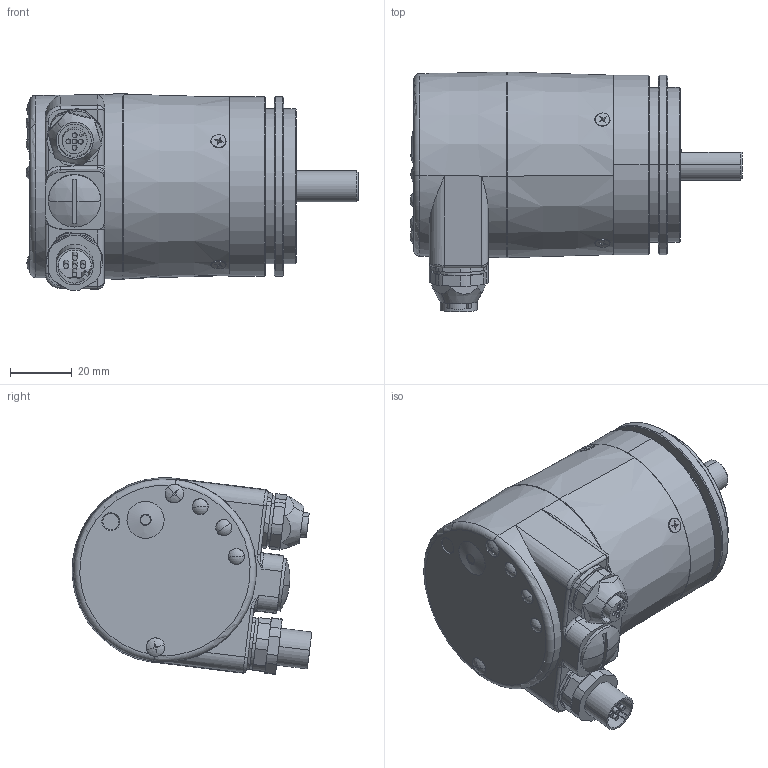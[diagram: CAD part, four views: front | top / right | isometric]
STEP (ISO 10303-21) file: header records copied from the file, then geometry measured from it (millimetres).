
FILE_DESCRIPTION (( 'STEP AP214' ), '1' );
FILE_NAME ('5868.2222.XXXX.STEP', '2008-06-25T07:27:16', ( 'admin' ), ( 'Fritz Kübler GmbH' ), 'SwSTEP 2.0', 'SolidWorks 2007', '' );
FILE_SCHEMA (( 'AUTOMOTIVE_DESIGN' ));
Length unit declared in the file: millimetre
Products named in the file (1): 5868.2222.XXXX
Bounding box: 107.2 x 77.38 x 63.55 mm (x, y, z)
Surface area: 30263.4 mm2 (no closed solid volume)
Topology: 0 solids, 22 shells, 384 faces, 988 edges, 632 vertices
Faces by surface type: plane 164, cylinder 139, cone 44, torus 15, sphere 13, bspline 9
Entity records: 16517 total; most frequent: CARTESIAN_POINT 2802, DIRECTION 2119, ORIENTED_EDGE 1816, EDGE_CURVE 983, AXIS2_PLACEMENT_3D 805, VERTEX_POINT 632, VECTOR 509, LINE 509
